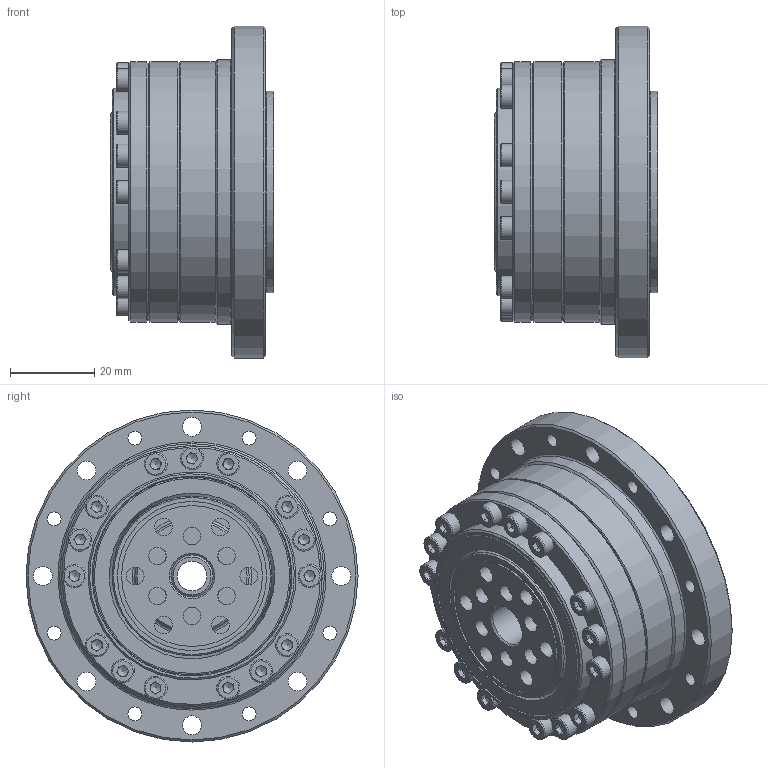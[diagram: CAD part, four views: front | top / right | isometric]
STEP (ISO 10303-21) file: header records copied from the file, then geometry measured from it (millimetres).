
FILE_DESCRIPTION (( 'STEP AP203' ), '1' );
FILE_NAME ('LCSG-17-XXX-C-I.STEP', '2025-01-20T01:50:27', ( '' ), ( '' ), 'SwSTEP 2.0', 'SolidWorks 2023', '' );
FILE_SCHEMA (( 'CONFIG_CONTROL_DESIGN' ));
Length unit declared in the file: metre
Products named in the file (1): LCSG-17-XXX-C-I
Bounding box: 39 x 79 x 79 mm (x, y, z)
Volume: 89928.9 mm3; surface area: 69768.5 mm2
Topology: 60 solids, 60 shells, 972 faces, 2307 edges, 1457 vertices
Faces by surface type: plane 505, cylinder 246, cone 128, bspline 93
Full cylindrical faces by diameter (mm): 1.6 x4, 2 x4, 2.4 x4, 2.5 x15, 3 x15, 3.3 x10, 3.5 x25, 3.8 x4, 4.2 x12, 4.4 x2, 4.5 x8, 5 x6, 5.5 x27, 7 x1, 8.5 x6, 10 x3, 16 x3, 27 x2, 27.2 x1, 28 x1, 29.4 x1, 30 x1, 30.295 x1, 32 x1, 32.53 x2, 33.23 x1, 33.5 x1, 35.5 x2, 38 x1, 38.1 x1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
Entity records: 30384 total; most frequent: CARTESIAN_POINT 10172, DIRECTION 4208, ORIENTED_EDGE 3558, EDGE_CURVE 1779, AXIS2_PLACEMENT_3D 1729, EDGE_LOOP 1556, VERTEX_POINT 1323, FACE_OUTER_BOUND 1218
